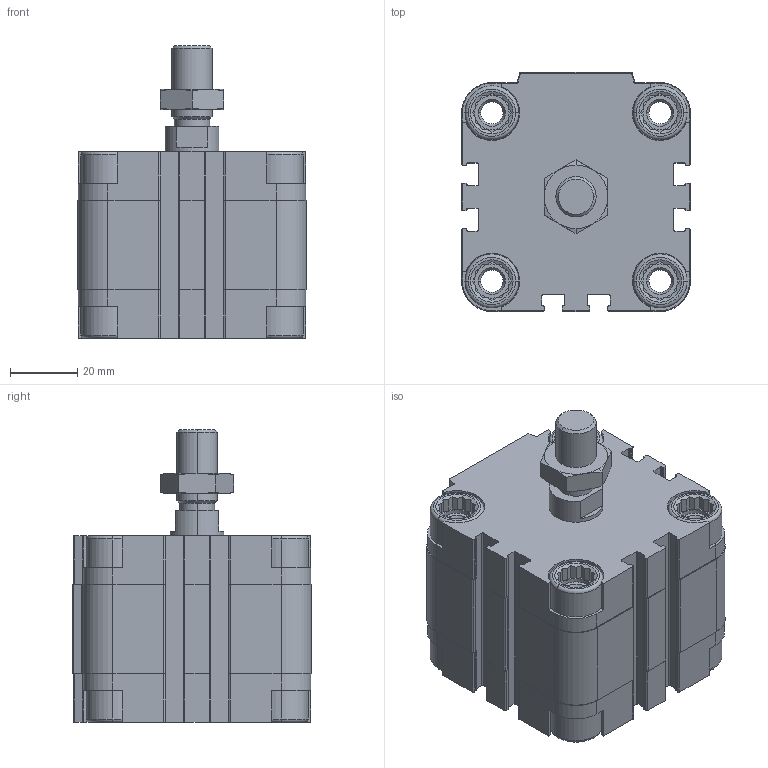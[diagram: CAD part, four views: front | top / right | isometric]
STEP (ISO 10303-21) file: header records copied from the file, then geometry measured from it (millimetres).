
FILE_DESCRIPTION (( 'STEP AP203' ), '1' );
FILE_NAME ('CDVU50-10.STEP', '2020-03-19T11:36:06', ( '' ), ( '' ), 'SwSTEP 2.0', 'SolidWorks 2019', '' );
FILE_SCHEMA (( 'CONFIG_CONTROL_DESIGN' ));
Length unit declared in the file: millimetre
Products named in the file (1): CDVU50-10
Bounding box: 68 x 71 x 87 mm (x, y, z)
Volume: 217390.5 mm3; surface area: 54452.2 mm2
Topology: 3 solids, 3 shells, 727 faces, 1932 edges, 1246 vertices
Faces by surface type: plane 425, cylinder 232, cone 54, torus 16
Entity records: 23055 total; most frequent: CARTESIAN_POINT 4826, ORIENTED_EDGE 3856, DIRECTION 3728, EDGE_CURVE 1928, AXIS2_PLACEMENT_3D 1276, VERTEX_POINT 1246, LINE 1176, VECTOR 1176
